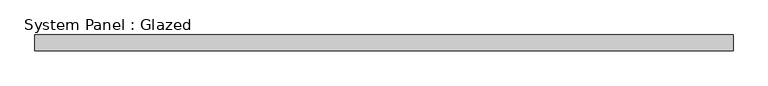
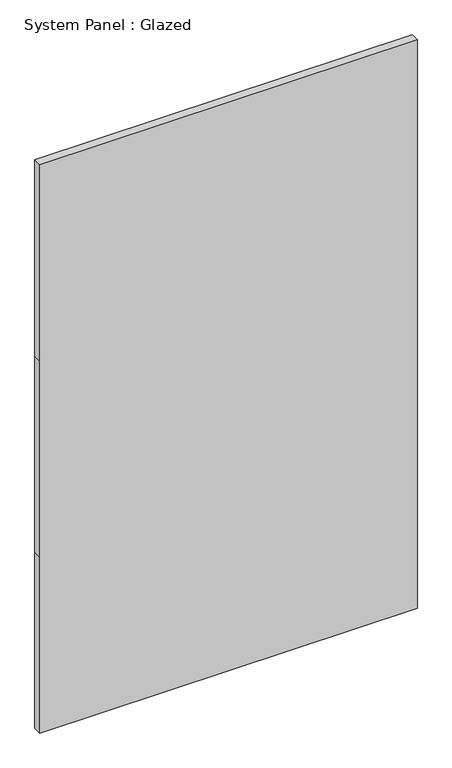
"""IFC4 building model written with IfcOpenShell, lengths in millimetres: plate geometry, System Panel : Glazed."""

from ifc_helpers import new_model, si_unit, frame, origin, place, context, project, spatial, polyline, outline, extrude, source, transform, mapped, element, save


def system_panel_glazed_294cdc5a(model_context):
    return source(origin(), model_context, "Body", "SweptSolid", [
        extrude(outline(polyline([(0.0, -554.9235595), (0.0, 554.9235595), (546.1, 554.9235595), (1155.7, 554.9235595), (1765.3, 554.9235595), (1765.3, -554.9235595), (1155.7, -554.9235595), (546.1, -554.9235595), (0.0, -554.9235595)])), frame((0.0, 19.05, 0.0), z_axis=(0.0, 1.0, 0.0), x_axis=(0.0, 0.0, 1.0)), (0.0, 0.0, 1.0), 25.4),
    ])


if __name__ == "__main__":
    model = new_model("IFC4")
    model_context = context("Model", 3, world=origin())
    ifc_project = project(units=[si_unit("LENGTHUNIT", "METRE", prefix="MILLI")], contexts=[model_context])
    site = spatial("IfcSite", under=ifc_project)
    building = spatial("IfcBuilding", under=site)
    placement = place(None, origin())
    system_panel_glazed_shape = system_panel_glazed_294cdc5a(model_context)
    element("IfcPlate", 1, ObjectType="System Panel : Glazed", at=placement, inside=building, context=model_context, shape_type="MappedRepresentation", body=[
        mapped(system_panel_glazed_shape, transform((0.0, 0.0, 0.0), x_axis=(1.0, 0.0, 0.0), y_axis=(0.0, 1.0, 0.0), z_axis=(0.0, 0.0, 1.0))),
    ])
    save(model, "model.ifc")
